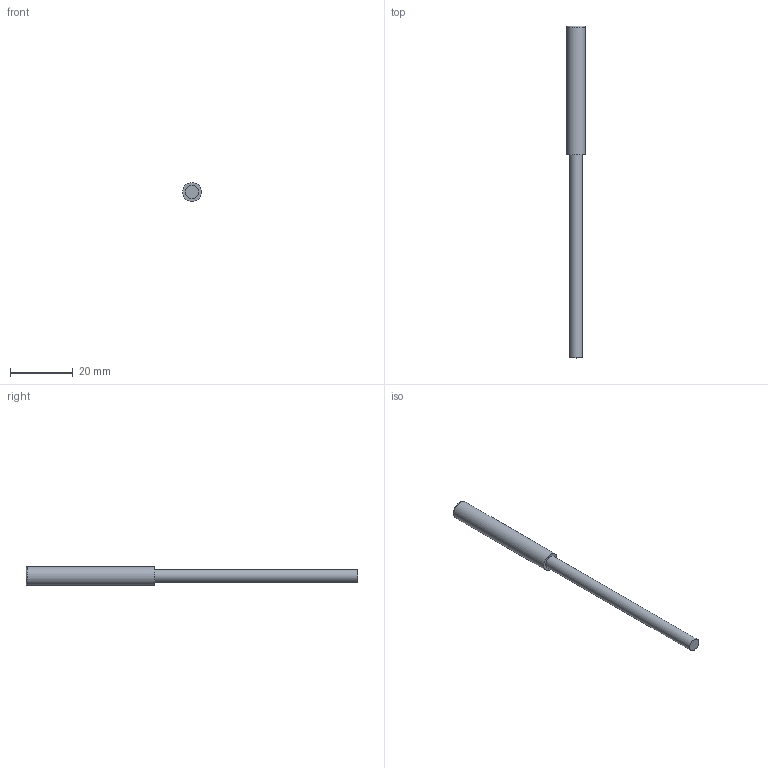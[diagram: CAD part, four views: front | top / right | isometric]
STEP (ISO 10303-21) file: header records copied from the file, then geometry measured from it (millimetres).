
FILE_DESCRIPTION(/* description */ ('Katalogmodell Elobau'),/* implementation_level */ '2;1');
FILE_NAME(/* name */ '125____A.stp',/* time_stamp */ '2014-09-24T11:55:31+02:00',/* author */ ('Elobau GmbH & Co. KG'),/* organization */ ('Elobau GmbH & Co. KG'),/* preprocessor_version */ 'ST-DEVELOPER v15',/* originating_system */ 'SIEMENS PLM Software NX 8.5',/* authorisation */ '');
FILE_SCHEMA (('AUTOMOTIVE_DESIGN { 1 0 10303 214 3 1 1 1 }'));
Length unit declared in the file: millimetre
Products named in the file (1): 125..._A
Bounding box: 6 x 106.2 x 6 mm (x, y, z)
Volume: 2022.1 mm3; surface area: 1666.2 mm2
Topology: 1 solids, 1 shells, 6 faces, 10 edges, 7 vertices
Faces by surface type: plane 3, cylinder 2, torus 1
Full cylindrical faces by diameter (mm): 4.1 x1, 6 x1
Entity records: 184 total; most frequent: DIRECTION 24, CARTESIAN_POINT 17, AXIS2_PLACEMENT_3D 12, EDGE_LOOP 10, ORIENTED_EDGE 10, FACE_BOUND 8, PRESENTATION_STYLE_ASSIGNMENT 7, SURFACE_STYLE_USAGE 7
